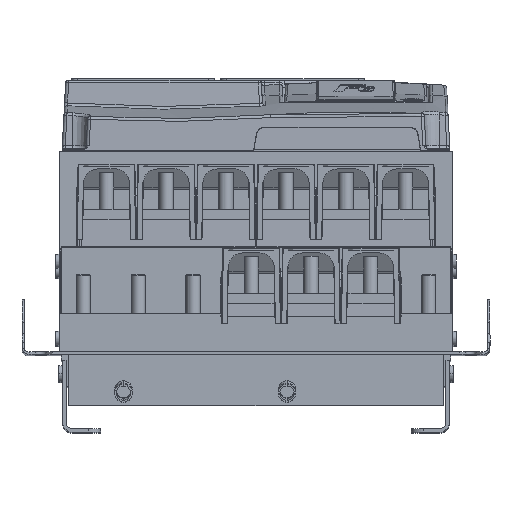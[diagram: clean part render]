
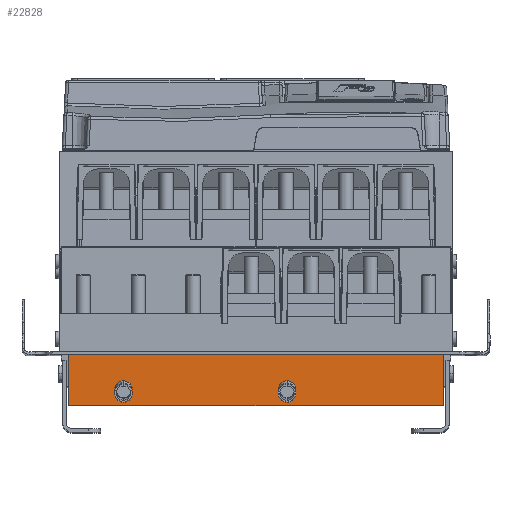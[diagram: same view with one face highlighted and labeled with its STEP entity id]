
A CAD part, top view. The second image highlights one B-rep face of the part: STEP entity #22828.
In plain terms, the highlighted planar face has unit normal (0, 0, 1).
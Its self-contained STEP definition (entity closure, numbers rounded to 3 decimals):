
#254 =( BOUNDED_CURVE ( )  B_SPLINE_CURVE ( 3, ( #33722, #11932, #96733, #26281 ),
 .UNSPECIFIED., .F., .T. ) 
 B_SPLINE_CURVE_WITH_KNOTS ( ( 4, 4 ),
 ( 3.142, 6.283 ),
 .UNSPECIFIED. ) 
 CURVE ( )  GEOMETRIC_REPRESENTATION_ITEM ( )  RATIONAL_B_SPLINE_CURVE ( ( 1., 0.333, 0.333, 1. ) ) 
 REPRESENTATION_ITEM ( '' )  );
#2372 = ORIENTED_EDGE ( 'NONE', *, *, #69735, .F. ) ;
#2658 = EDGE_CURVE ( 'NONE', #7438, #57905, #33232, .T. ) ;
#3104 = ORIENTED_EDGE ( 'NONE', *, *, #29490, .F. ) ;
#4408 = VERTEX_POINT ( 'NONE', #6871 ) ;
#4451 = CARTESIAN_POINT ( 'NONE',  ( 157., -16., 640.5 ) ) ;
#6324 = CARTESIAN_POINT ( 'NONE',  ( 157., -16., 640.5 ) ) ;
#6871 = CARTESIAN_POINT ( 'NONE',  ( 26., 4.94, 640.5 ) ) ;
#7438 = VERTEX_POINT ( 'NONE', #6324 ) ;
#8988 = CARTESIAN_POINT ( 'NONE',  ( 11., -11.022, 640.5 ) ) ;
#10621 = CARTESIAN_POINT ( 'NONE',  ( -157., 27., 640.5 ) ) ;
#10630 = CARTESIAN_POINT ( 'NONE',  ( 157., -16., 640.5 ) ) ;
#10981 = CARTESIAN_POINT ( 'NONE',  ( -126., 4.94, 640.5 ) ) ;
#11932 = CARTESIAN_POINT ( 'NONE',  ( 41., -11.022, 640.5 ) ) ;
#12960 = CARTESIAN_POINT ( 'NONE',  ( -111., -11.022, 640.5 ) ) ;
#13018 =( BOUNDED_CURVE ( )  B_SPLINE_CURVE ( 3, ( #47597, #10981, #50859, #85589 ),
 .UNSPECIFIED., .F., .T. ) 
 B_SPLINE_CURVE_WITH_KNOTS ( ( 4, 4 ),
 ( 0., 3.142 ),
 .UNSPECIFIED. ) 
 CURVE ( )  GEOMETRIC_REPRESENTATION_ITEM ( )  RATIONAL_B_SPLINE_CURVE ( ( 1., 0.333, 0.333, 1. ) ) 
 REPRESENTATION_ITEM ( '' )  );
#15890 = VECTOR ( 'NONE', #26288, 1000. ) ;
#18031 = DIRECTION ( 'NONE',  ( -1., 0., 0. ) ) ;
#19102 = VECTOR ( 'NONE', #34281, 1000. ) ;
#20200 = DIRECTION ( 'NONE',  ( 0., 1., 0. ) ) ;
#22828 = ADVANCED_FACE ( 'NONE', ( #42018, #56345, #79014 ), #72105, .F. ) ;
#23819 = CARTESIAN_POINT ( 'NONE',  ( -96., -11.022, 640.5 ) ) ;
#25276 = VERTEX_POINT ( 'NONE', #52664 ) ;
#26281 = CARTESIAN_POINT ( 'NONE',  ( 26., 4.94, 640.5 ) ) ;
#26288 = DIRECTION ( 'NONE',  ( 0., 1., 0. ) ) ;
#27128 = DIRECTION ( 'NONE',  ( 0., 0., -1. ) ) ;
#27726 = EDGE_CURVE ( 'NONE', #7438, #79970, #93120, .T. ) ;
#28177 = EDGE_LOOP ( 'NONE', ( #31543, #80809, #85577, #85329 ) ) ;
#28749 = LINE ( 'NONE', #41717, #19102 ) ;
#29490 = EDGE_CURVE ( 'NONE', #89431, #25276, #45992, .T. ) ;
#31543 = ORIENTED_EDGE ( 'NONE', *, *, #2658, .T. ) ;
#31717 = CARTESIAN_POINT ( 'NONE',  ( -96., 4.94, 640.5 ) ) ;
#32578 = AXIS2_PLACEMENT_3D ( 'NONE', #4451, #27128, #20200 ) ;
#33232 = LINE ( 'NONE', #55975, #15890 ) ;
#33722 = CARTESIAN_POINT ( 'NONE',  ( 26., -11.022, 640.5 ) ) ;
#34281 = DIRECTION ( 'NONE',  ( 0., 1., 0. ) ) ;
#38659 = CARTESIAN_POINT ( 'NONE',  ( 26., 4.94, 640.5 ) ) ;
#38767 = EDGE_CURVE ( 'NONE', #25276, #89431, #13018, .T. ) ;
#39145 = CARTESIAN_POINT ( 'NONE',  ( 26., -11.022, 640.5 ) ) ;
#40461 = EDGE_CURVE ( 'NONE', #57905, #61542, #89222, .T. ) ;
#41133 =( BOUNDED_CURVE ( )  B_SPLINE_CURVE ( 3, ( #38659, #68788, #8988, #39145 ),
 .UNSPECIFIED., .F., .T. ) 
 B_SPLINE_CURVE_WITH_KNOTS ( ( 4, 4 ),
 ( 0., 3.142 ),
 .UNSPECIFIED. ) 
 CURVE ( )  GEOMETRIC_REPRESENTATION_ITEM ( )  RATIONAL_B_SPLINE_CURVE ( ( 1., 0.333, 0.333, 1. ) ) 
 REPRESENTATION_ITEM ( '' )  );
#41717 = CARTESIAN_POINT ( 'NONE',  ( -157., -16., 640.5 ) ) ;
#42018 = FACE_BOUND ( 'NONE', #68133, .T. ) ;
#45992 =( BOUNDED_CURVE ( )  B_SPLINE_CURVE ( 3, ( #52516, #23819, #31717, #61880 ),
 .UNSPECIFIED., .F., .T. ) 
 B_SPLINE_CURVE_WITH_KNOTS ( ( 4, 4 ),
 ( 3.142, 6.283 ),
 .UNSPECIFIED. ) 
 CURVE ( )  GEOMETRIC_REPRESENTATION_ITEM ( )  RATIONAL_B_SPLINE_CURVE ( ( 1., 0.333, 0.333, 1. ) ) 
 REPRESENTATION_ITEM ( '' )  );
#47597 = CARTESIAN_POINT ( 'NONE',  ( -111., 4.94, 640.5 ) ) ;
#50772 = CARTESIAN_POINT ( 'NONE',  ( 157., 27., 640.5 ) ) ;
#50859 = CARTESIAN_POINT ( 'NONE',  ( -126., -11.022, 640.5 ) ) ;
#52516 = CARTESIAN_POINT ( 'NONE',  ( -111., -11.022, 640.5 ) ) ;
#52664 = CARTESIAN_POINT ( 'NONE',  ( -111., 4.94, 640.5 ) ) ;
#55975 = CARTESIAN_POINT ( 'NONE',  ( 157., -16., 640.5 ) ) ;
#56345 = FACE_BOUND ( 'NONE', #94750, .T. ) ;
#57905 = VERTEX_POINT ( 'NONE', #58444 ) ;
#58444 = CARTESIAN_POINT ( 'NONE',  ( 157., 27., 640.5 ) ) ;
#61542 = VERTEX_POINT ( 'NONE', #10621 ) ;
#61880 = CARTESIAN_POINT ( 'NONE',  ( -111., 4.94, 640.5 ) ) ;
#66080 = CARTESIAN_POINT ( 'NONE',  ( 26., -11.022, 640.5 ) ) ;
#68133 = EDGE_LOOP ( 'NONE', ( #70565, #2372 ) ) ;
#68788 = CARTESIAN_POINT ( 'NONE',  ( 11., 4.94, 640.5 ) ) ;
#69055 = VECTOR ( 'NONE', #73939, 1000. ) ;
#69735 = EDGE_CURVE ( 'NONE', #73362, #4408, #254, .T. ) ;
#70565 = ORIENTED_EDGE ( 'NONE', *, *, #91695, .F. ) ;
#72105 = PLANE ( 'NONE',  #32578 ) ;
#73362 = VERTEX_POINT ( 'NONE', #66080 ) ;
#73939 = DIRECTION ( 'NONE',  ( -1., 0., 0. ) ) ;
#75835 = VECTOR ( 'NONE', #18031, 1000. ) ;
#79014 = FACE_OUTER_BOUND ( 'NONE', #28177, .T. ) ;
#79970 = VERTEX_POINT ( 'NONE', #93118 ) ;
#80809 = ORIENTED_EDGE ( 'NONE', *, *, #40461, .T. ) ;
#83397 = ORIENTED_EDGE ( 'NONE', *, *, #38767, .F. ) ;
#85329 = ORIENTED_EDGE ( 'NONE', *, *, #27726, .F. ) ;
#85577 = ORIENTED_EDGE ( 'NONE', *, *, #96802, .F. ) ;
#85589 = CARTESIAN_POINT ( 'NONE',  ( -111., -11.022, 640.5 ) ) ;
#89222 = LINE ( 'NONE', #50772, #69055 ) ;
#89431 = VERTEX_POINT ( 'NONE', #12960 ) ;
#91695 = EDGE_CURVE ( 'NONE', #4408, #73362, #41133, .T. ) ;
#93118 = CARTESIAN_POINT ( 'NONE',  ( -157., -16., 640.5 ) ) ;
#93120 = LINE ( 'NONE', #10630, #75835 ) ;
#94750 = EDGE_LOOP ( 'NONE', ( #83397, #3104 ) ) ;
#96733 = CARTESIAN_POINT ( 'NONE',  ( 41., 4.94, 640.5 ) ) ;
#96802 = EDGE_CURVE ( 'NONE', #79970, #61542, #28749, .T. ) ;
